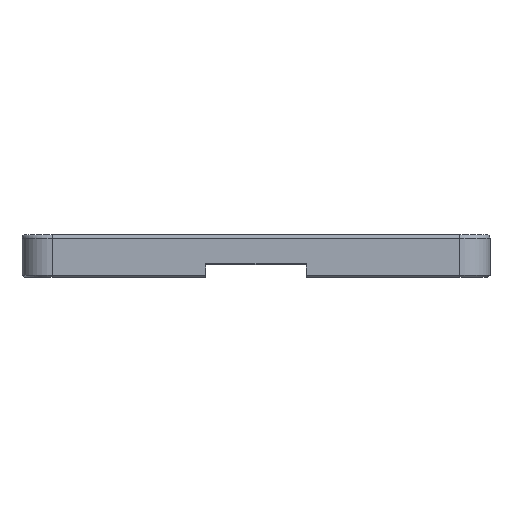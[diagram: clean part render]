
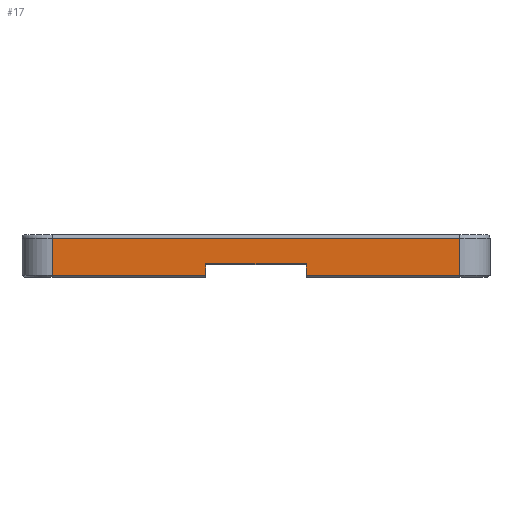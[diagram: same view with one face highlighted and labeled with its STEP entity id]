
A CAD part, left-side view. The second image highlights one B-rep face of the part: STEP entity #17.
In plain terms, the highlighted planar face has unit normal (-1, 0, 0).
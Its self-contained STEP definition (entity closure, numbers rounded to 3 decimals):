
#17 = ADVANCED_FACE('',(#18),#32,.F.);
#18 = FACE_BOUND('',#19,.F.);
#19 = EDGE_LOOP('',(#20,#55,#83,#109,#135,#161,#189,#217));
#20 = ORIENTED_EDGE('',*,*,#21,.F.);
#21 = EDGE_CURVE('',#22,#24,#26,.T.);
#22 = VERTEX_POINT('',#23);
#23 = CARTESIAN_POINT('',(-74.65,-48.9,0.5));
#24 = VERTEX_POINT('',#25);
#25 = CARTESIAN_POINT('',(-74.65,-48.9,9.4));
#26 = SURFACE_CURVE('',#27,(#31,#43),.PCURVE_S1.);
#27 = LINE('',#28,#29);
#28 = CARTESIAN_POINT('',(-74.65,-48.9,0.));
#29 = VECTOR('',#30,1.);
#30 = DIRECTION('',(0.,0.,1.));
#31 = PCURVE('',#32,#37);
#32 = PLANE('',#33);
#33 = AXIS2_PLACEMENT_3D('',#34,#35,#36);
#34 = CARTESIAN_POINT('',(-74.65,-56.15,0.));
#35 = DIRECTION('',(1.,0.,-0.));
#36 = DIRECTION('',(0.,0.,1.));
#37 = DEFINITIONAL_REPRESENTATION('',(#38),#42);
#38 = LINE('',#39,#40);
#39 = CARTESIAN_POINT('',(0.,-7.25));
#40 = VECTOR('',#41,1.);
#41 = DIRECTION('',(1.,0.));
#42 = ( GEOMETRIC_REPRESENTATION_CONTEXT(2) 
PARAMETRIC_REPRESENTATION_CONTEXT() REPRESENTATION_CONTEXT('2D SPACE',''
  ) );
#43 = PCURVE('',#44,#49);
#44 = CYLINDRICAL_SURFACE('',#45,7.25);
#45 = AXIS2_PLACEMENT_3D('',#46,#47,#48);
#46 = CARTESIAN_POINT('',(-67.4,-48.9,0.));
#47 = DIRECTION('',(0.,0.,1.));
#48 = DIRECTION('',(-1.,-0.,0.));
#49 = DEFINITIONAL_REPRESENTATION('',(#50),#54);
#50 = LINE('',#51,#52);
#51 = CARTESIAN_POINT('',(0.,0.));
#52 = VECTOR('',#53,1.);
#53 = DIRECTION('',(0.,1.));
#54 = ( GEOMETRIC_REPRESENTATION_CONTEXT(2) 
PARAMETRIC_REPRESENTATION_CONTEXT() REPRESENTATION_CONTEXT('2D SPACE',''
  ) );
#55 = ORIENTED_EDGE('',*,*,#56,.T.);
#56 = EDGE_CURVE('',#22,#57,#59,.T.);
#57 = VERTEX_POINT('',#58);
#58 = CARTESIAN_POINT('',(-74.65,-12.,0.5));
#59 = SURFACE_CURVE('',#60,(#64,#71),.PCURVE_S1.);
#60 = LINE('',#61,#62);
#61 = CARTESIAN_POINT('',(-74.65,-48.9,0.5));
#62 = VECTOR('',#63,1.);
#63 = DIRECTION('',(-0.,1.,0.));
#64 = PCURVE('',#32,#65);
#65 = DEFINITIONAL_REPRESENTATION('',(#66),#70);
#66 = LINE('',#67,#68);
#67 = CARTESIAN_POINT('',(0.5,-7.25));
#68 = VECTOR('',#69,1.);
#69 = DIRECTION('',(0.,-1.));
#70 = ( GEOMETRIC_REPRESENTATION_CONTEXT(2) 
PARAMETRIC_REPRESENTATION_CONTEXT() REPRESENTATION_CONTEXT('2D SPACE',''
  ) );
#71 = PCURVE('',#72,#77);
#72 = PLANE('',#73);
#73 = AXIS2_PLACEMENT_3D('',#74,#75,#76);
#74 = CARTESIAN_POINT('',(-74.4,-48.9,0.25));
#75 = DIRECTION('',(-0.707,0.,-0.707));
#76 = DIRECTION('',(0.,1.,0.));
#77 = DEFINITIONAL_REPRESENTATION('',(#78),#82);
#78 = LINE('',#79,#80);
#79 = CARTESIAN_POINT('',(0.,-0.354));
#80 = VECTOR('',#81,1.);
#81 = DIRECTION('',(1.,0.));
#82 = ( GEOMETRIC_REPRESENTATION_CONTEXT(2) 
PARAMETRIC_REPRESENTATION_CONTEXT() REPRESENTATION_CONTEXT('2D SPACE',''
  ) );
#83 = ORIENTED_EDGE('',*,*,#84,.F.);
#84 = EDGE_CURVE('',#85,#57,#87,.T.);
#85 = VERTEX_POINT('',#86);
#86 = CARTESIAN_POINT('',(-74.65,-12.,3.2));
#87 = SURFACE_CURVE('',#88,(#92,#98),.PCURVE_S1.);
#88 = LINE('',#89,#90);
#89 = CARTESIAN_POINT('',(-74.65,-12.,-5.4));
#90 = VECTOR('',#91,1.);
#91 = DIRECTION('',(0.,0.,-1.));
#92 = PCURVE('',#32,#93);
#93 = DEFINITIONAL_REPRESENTATION('',(#94),#97);
#94 = B_SPLINE_CURVE_WITH_KNOTS('',1,(#95,#96),.UNSPECIFIED.,.F.,.F.,(2,
    2),(-8.6,-5.9),.PIECEWISE_BEZIER_KNOTS.);
#95 = CARTESIAN_POINT('',(3.2,-44.15));
#96 = CARTESIAN_POINT('',(0.5,-44.15));
#97 = ( GEOMETRIC_REPRESENTATION_CONTEXT(2) 
PARAMETRIC_REPRESENTATION_CONTEXT() REPRESENTATION_CONTEXT('2D SPACE',''
  ) );
#98 = PCURVE('',#99,#104);
#99 = PLANE('',#100);
#100 = AXIS2_PLACEMENT_3D('',#101,#102,#103);
#101 = CARTESIAN_POINT('',(-74.65,-12.,-10.8));
#102 = DIRECTION('',(0.,-1.,0.));
#103 = DIRECTION('',(1.,0.,0.));
#104 = DEFINITIONAL_REPRESENTATION('',(#105),#108);
#105 = B_SPLINE_CURVE_WITH_KNOTS('',1,(#106,#107),.UNSPECIFIED.,.F.,.F.,
  (2,2),(-8.6,-5.9),.PIECEWISE_BEZIER_KNOTS.);
#106 = CARTESIAN_POINT('',(0.,14.));
#107 = CARTESIAN_POINT('',(0.,11.3));
#108 = ( GEOMETRIC_REPRESENTATION_CONTEXT(2) 
PARAMETRIC_REPRESENTATION_CONTEXT() REPRESENTATION_CONTEXT('2D SPACE',''
  ) );
#109 = ORIENTED_EDGE('',*,*,#110,.F.);
#110 = EDGE_CURVE('',#111,#85,#113,.T.);
#111 = VERTEX_POINT('',#112);
#112 = CARTESIAN_POINT('',(-74.65,12.,3.2));
#113 = SURFACE_CURVE('',#114,(#118,#124),.PCURVE_S1.);
#114 = LINE('',#115,#116);
#115 = CARTESIAN_POINT('',(-74.65,12.,3.2));
#116 = VECTOR('',#117,1.);
#117 = DIRECTION('',(0.,-1.,0.));
#118 = PCURVE('',#32,#119);
#119 = DEFINITIONAL_REPRESENTATION('',(#120),#123);
#120 = B_SPLINE_CURVE_WITH_KNOTS('',1,(#121,#122),.UNSPECIFIED.,.F.,.F.,
  (2,2),(0.,24.),.PIECEWISE_BEZIER_KNOTS.);
#121 = CARTESIAN_POINT('',(3.2,-68.15));
#122 = CARTESIAN_POINT('',(3.2,-44.15));
#123 = ( GEOMETRIC_REPRESENTATION_CONTEXT(2) 
PARAMETRIC_REPRESENTATION_CONTEXT() REPRESENTATION_CONTEXT('2D SPACE',''
  ) );
#124 = PCURVE('',#125,#130);
#125 = CYLINDRICAL_SURFACE('',#126,14.);
#126 = AXIS2_PLACEMENT_3D('',#127,#128,#129);
#127 = CARTESIAN_POINT('',(-74.65,12.,-10.8));
#128 = DIRECTION('',(0.,-1.,0.));
#129 = DIRECTION('',(1.,0.,0.));
#130 = DEFINITIONAL_REPRESENTATION('',(#131),#134);
#131 = B_SPLINE_CURVE_WITH_KNOTS('',1,(#132,#133),.UNSPECIFIED.,.F.,.F.,
  (2,2),(0.,24.),.PIECEWISE_BEZIER_KNOTS.);
#132 = CARTESIAN_POINT('',(1.571,0.));
#133 = CARTESIAN_POINT('',(1.571,24.));
#134 = ( GEOMETRIC_REPRESENTATION_CONTEXT(2) 
PARAMETRIC_REPRESENTATION_CONTEXT() REPRESENTATION_CONTEXT('2D SPACE',''
  ) );
#135 = ORIENTED_EDGE('',*,*,#136,.T.);
#136 = EDGE_CURVE('',#111,#137,#139,.T.);
#137 = VERTEX_POINT('',#138);
#138 = CARTESIAN_POINT('',(-74.65,12.,0.5));
#139 = SURFACE_CURVE('',#140,(#144,#150),.PCURVE_S1.);
#140 = LINE('',#141,#142);
#141 = CARTESIAN_POINT('',(-74.65,12.,-5.4));
#142 = VECTOR('',#143,1.);
#143 = DIRECTION('',(0.,0.,-1.));
#144 = PCURVE('',#32,#145);
#145 = DEFINITIONAL_REPRESENTATION('',(#146),#149);
#146 = B_SPLINE_CURVE_WITH_KNOTS('',1,(#147,#148),.UNSPECIFIED.,.F.,.F.,
  (2,2),(-8.6,-5.9),.PIECEWISE_BEZIER_KNOTS.);
#147 = CARTESIAN_POINT('',(3.2,-68.15));
#148 = CARTESIAN_POINT('',(0.5,-68.15));
#149 = ( GEOMETRIC_REPRESENTATION_CONTEXT(2) 
PARAMETRIC_REPRESENTATION_CONTEXT() REPRESENTATION_CONTEXT('2D SPACE',''
  ) );
#150 = PCURVE('',#151,#156);
#151 = PLANE('',#152);
#152 = AXIS2_PLACEMENT_3D('',#153,#154,#155);
#153 = CARTESIAN_POINT('',(-74.65,12.,-10.8));
#154 = DIRECTION('',(0.,-1.,0.));
#155 = DIRECTION('',(1.,0.,0.));
#156 = DEFINITIONAL_REPRESENTATION('',(#157),#160);
#157 = B_SPLINE_CURVE_WITH_KNOTS('',1,(#158,#159),.UNSPECIFIED.,.F.,.F.,
  (2,2),(-8.6,-5.9),.PIECEWISE_BEZIER_KNOTS.);
#158 = CARTESIAN_POINT('',(0.,14.));
#159 = CARTESIAN_POINT('',(0.,11.3));
#160 = ( GEOMETRIC_REPRESENTATION_CONTEXT(2) 
PARAMETRIC_REPRESENTATION_CONTEXT() REPRESENTATION_CONTEXT('2D SPACE',''
  ) );
#161 = ORIENTED_EDGE('',*,*,#162,.T.);
#162 = EDGE_CURVE('',#137,#163,#165,.T.);
#163 = VERTEX_POINT('',#164);
#164 = CARTESIAN_POINT('',(-74.65,48.9,0.5));
#165 = SURFACE_CURVE('',#166,(#170,#177),.PCURVE_S1.);
#166 = LINE('',#167,#168);
#167 = CARTESIAN_POINT('',(-74.65,-48.9,0.5));
#168 = VECTOR('',#169,1.);
#169 = DIRECTION('',(-0.,1.,0.));
#170 = PCURVE('',#32,#171);
#171 = DEFINITIONAL_REPRESENTATION('',(#172),#176);
#172 = LINE('',#173,#174);
#173 = CARTESIAN_POINT('',(0.5,-7.25));
#174 = VECTOR('',#175,1.);
#175 = DIRECTION('',(0.,-1.));
#176 = ( GEOMETRIC_REPRESENTATION_CONTEXT(2) 
PARAMETRIC_REPRESENTATION_CONTEXT() REPRESENTATION_CONTEXT('2D SPACE',''
  ) );
#177 = PCURVE('',#178,#183);
#178 = PLANE('',#179);
#179 = AXIS2_PLACEMENT_3D('',#180,#181,#182);
#180 = CARTESIAN_POINT('',(-74.4,-48.9,0.25));
#181 = DIRECTION('',(-0.707,0.,-0.707));
#182 = DIRECTION('',(0.,1.,0.));
#183 = DEFINITIONAL_REPRESENTATION('',(#184),#188);
#184 = LINE('',#185,#186);
#185 = CARTESIAN_POINT('',(0.,-0.354));
#186 = VECTOR('',#187,1.);
#187 = DIRECTION('',(1.,0.));
#188 = ( GEOMETRIC_REPRESENTATION_CONTEXT(2) 
PARAMETRIC_REPRESENTATION_CONTEXT() REPRESENTATION_CONTEXT('2D SPACE',''
  ) );
#189 = ORIENTED_EDGE('',*,*,#190,.T.);
#190 = EDGE_CURVE('',#163,#191,#193,.T.);
#191 = VERTEX_POINT('',#192);
#192 = CARTESIAN_POINT('',(-74.65,48.9,9.4));
#193 = SURFACE_CURVE('',#194,(#198,#205),.PCURVE_S1.);
#194 = LINE('',#195,#196);
#195 = CARTESIAN_POINT('',(-74.65,48.9,0.));
#196 = VECTOR('',#197,1.);
#197 = DIRECTION('',(0.,0.,1.));
#198 = PCURVE('',#32,#199);
#199 = DEFINITIONAL_REPRESENTATION('',(#200),#204);
#200 = LINE('',#201,#202);
#201 = CARTESIAN_POINT('',(0.,-105.05));
#202 = VECTOR('',#203,1.);
#203 = DIRECTION('',(1.,0.));
#204 = ( GEOMETRIC_REPRESENTATION_CONTEXT(2) 
PARAMETRIC_REPRESENTATION_CONTEXT() REPRESENTATION_CONTEXT('2D SPACE',''
  ) );
#205 = PCURVE('',#206,#211);
#206 = CYLINDRICAL_SURFACE('',#207,7.25);
#207 = AXIS2_PLACEMENT_3D('',#208,#209,#210);
#208 = CARTESIAN_POINT('',(-67.4,48.9,0.));
#209 = DIRECTION('',(0.,0.,1.));
#210 = DIRECTION('',(-1.,-0.,0.));
#211 = DEFINITIONAL_REPRESENTATION('',(#212),#216);
#212 = LINE('',#213,#214);
#213 = CARTESIAN_POINT('',(-0.,0.));
#214 = VECTOR('',#215,1.);
#215 = DIRECTION('',(-0.,1.));
#216 = ( GEOMETRIC_REPRESENTATION_CONTEXT(2) 
PARAMETRIC_REPRESENTATION_CONTEXT() REPRESENTATION_CONTEXT('2D SPACE',''
  ) );
#217 = ORIENTED_EDGE('',*,*,#218,.F.);
#218 = EDGE_CURVE('',#24,#191,#219,.T.);
#219 = SURFACE_CURVE('',#220,(#224,#231),.PCURVE_S1.);
#220 = LINE('',#221,#222);
#221 = CARTESIAN_POINT('',(-74.65,-48.9,9.4));
#222 = VECTOR('',#223,1.);
#223 = DIRECTION('',(-0.,1.,0.));
#224 = PCURVE('',#32,#225);
#225 = DEFINITIONAL_REPRESENTATION('',(#226),#230);
#226 = LINE('',#227,#228);
#227 = CARTESIAN_POINT('',(9.4,-7.25));
#228 = VECTOR('',#229,1.);
#229 = DIRECTION('',(0.,-1.));
#230 = ( GEOMETRIC_REPRESENTATION_CONTEXT(2) 
PARAMETRIC_REPRESENTATION_CONTEXT() REPRESENTATION_CONTEXT('2D SPACE',''
  ) );
#231 = PCURVE('',#232,#237);
#232 = CYLINDRICAL_SURFACE('',#233,0.8);
#233 = AXIS2_PLACEMENT_3D('',#234,#235,#236);
#234 = CARTESIAN_POINT('',(-73.85,-48.9,9.4));
#235 = DIRECTION('',(-0.,1.,0.));
#236 = DIRECTION('',(-1.,-0.,0.));
#237 = DEFINITIONAL_REPRESENTATION('',(#238),#242);
#238 = LINE('',#239,#240);
#239 = CARTESIAN_POINT('',(0.,0.));
#240 = VECTOR('',#241,1.);
#241 = DIRECTION('',(0.,1.));
#242 = ( GEOMETRIC_REPRESENTATION_CONTEXT(2) 
PARAMETRIC_REPRESENTATION_CONTEXT() REPRESENTATION_CONTEXT('2D SPACE',''
  ) );
